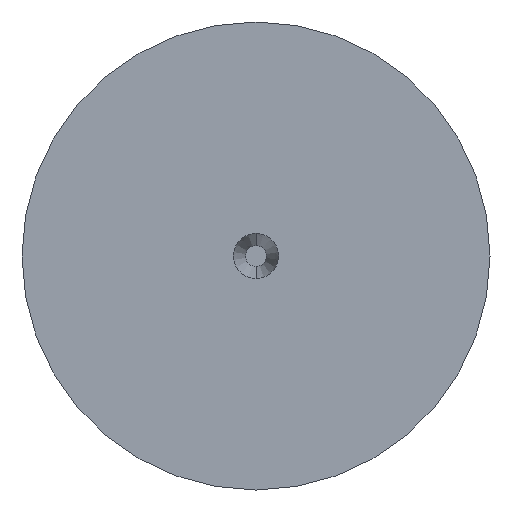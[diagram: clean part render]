
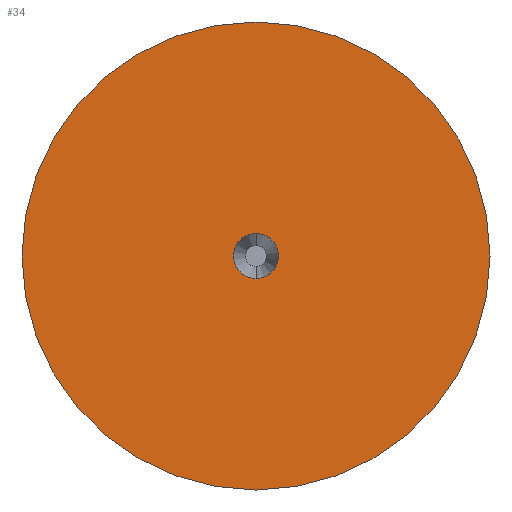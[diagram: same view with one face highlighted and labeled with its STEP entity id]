
A CAD part, left-side view. The second image highlights one B-rep face of the part: STEP entity #34.
In plain terms, the highlighted planar face has unit normal (-1, 0, 0).
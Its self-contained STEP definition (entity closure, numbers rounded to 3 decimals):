
#2 = VERTEX_POINT ( 'NONE', #105 ) ;
#7 = AXIS2_PLACEMENT_3D ( 'NONE', #186, #188, #191 ) ;
#14 = CIRCLE ( 'NONE', #159, 1.55 ) ;
#21 = AXIS2_PLACEMENT_3D ( 'NONE', #104, #134, #135 ) ;
#26 = DIRECTION ( 'NONE',  ( -1., 0., 0. ) ) ;
#34 = ADVANCED_FACE ( 'NONE', ( #269, #208 ), #132, .F. ) ;
#41 = ORIENTED_EDGE ( 'NONE', *, *, #163, .T. ) ;
#42 = CIRCLE ( 'NONE', #244, 1.55 ) ;
#49 = EDGE_CURVE ( 'NONE', #164, #264, #63, .T. ) ;
#54 = CARTESIAN_POINT ( 'NONE',  ( 0., 0., 0. ) ) ;
#63 = CIRCLE ( 'NONE', #7, 0.15 ) ;
#69 = DIRECTION ( 'NONE',  ( 0., 0., 1. ) ) ;
#72 = EDGE_LOOP ( 'NONE', ( #151, #41 ) ) ;
#90 = CARTESIAN_POINT ( 'NONE',  ( 0., 0., 0. ) ) ;
#97 = ORIENTED_EDGE ( 'NONE', *, *, #49, .F. ) ;
#101 = EDGE_CURVE ( 'NONE', #257, #2, #14, .T. ) ;
#104 = CARTESIAN_POINT ( 'NONE',  ( 0., 0., 0. ) ) ;
#105 = CARTESIAN_POINT ( 'NONE',  ( 0., 0., -1.55 ) ) ;
#131 = EDGE_CURVE ( 'NONE', #264, #164, #183, .T. ) ;
#132 = PLANE ( 'NONE',  #21 ) ;
#134 = DIRECTION ( 'NONE',  ( 1., 0., 0. ) ) ;
#135 = DIRECTION ( 'NONE',  ( 0., 0., -1. ) ) ;
#151 = ORIENTED_EDGE ( 'NONE', *, *, #101, .T. ) ;
#159 = AXIS2_PLACEMENT_3D ( 'NONE', #285, #287, #296 ) ;
#163 = EDGE_CURVE ( 'NONE', #2, #257, #42, .T. ) ;
#164 = VERTEX_POINT ( 'NONE', #189 ) ;
#183 = CIRCLE ( 'NONE', #193, 0.15 ) ;
#186 = CARTESIAN_POINT ( 'NONE',  ( 0., 0., 0. ) ) ;
#188 = DIRECTION ( 'NONE',  ( -1., 0., 0. ) ) ;
#189 = CARTESIAN_POINT ( 'NONE',  ( 0., 0., -0.15 ) ) ;
#191 = DIRECTION ( 'NONE',  ( 0., 0., 1. ) ) ;
#193 = AXIS2_PLACEMENT_3D ( 'NONE', #54, #26, #69 ) ;
#208 = FACE_OUTER_BOUND ( 'NONE', #72, .T. ) ;
#215 = DIRECTION ( 'NONE',  ( 0., 0., 1. ) ) ;
#240 = DIRECTION ( 'NONE',  ( -1., 0., 0. ) ) ;
#244 = AXIS2_PLACEMENT_3D ( 'NONE', #90, #240, #215 ) ;
#249 = EDGE_LOOP ( 'NONE', ( #263, #97 ) ) ;
#257 = VERTEX_POINT ( 'NONE', #267 ) ;
#263 = ORIENTED_EDGE ( 'NONE', *, *, #131, .F. ) ;
#264 = VERTEX_POINT ( 'NONE', #273 ) ;
#267 = CARTESIAN_POINT ( 'NONE',  ( 0., 0., 1.55 ) ) ;
#269 = FACE_BOUND ( 'NONE', #249, .T. ) ;
#273 = CARTESIAN_POINT ( 'NONE',  ( 0., 0., 0.15 ) ) ;
#285 = CARTESIAN_POINT ( 'NONE',  ( 0., 0., 0. ) ) ;
#287 = DIRECTION ( 'NONE',  ( -1., 0., 0. ) ) ;
#296 = DIRECTION ( 'NONE',  ( 0., 0., 1. ) ) ;
